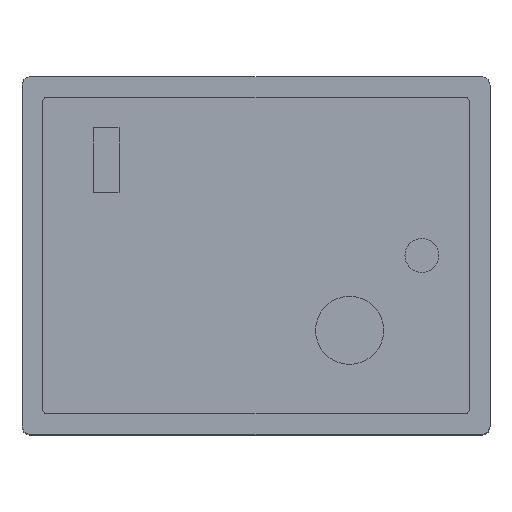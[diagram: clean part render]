
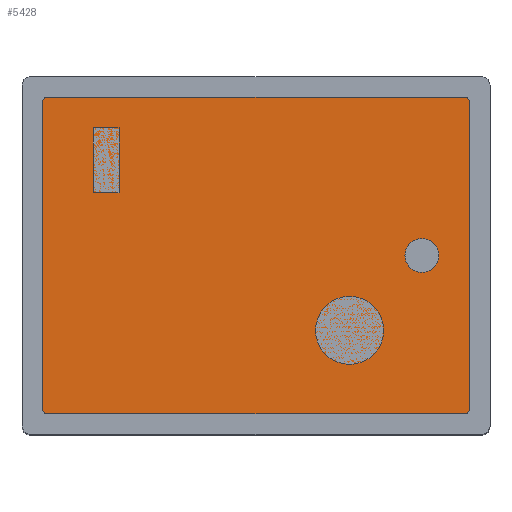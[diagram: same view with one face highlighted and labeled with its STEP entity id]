
A CAD part, top view. The second image highlights one B-rep face of the part: STEP entity #5428.
In plain terms, the highlighted planar face has unit normal (0, 0, 1).
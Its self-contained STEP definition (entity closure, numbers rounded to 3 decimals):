
#4201=CIRCLE('',#27604,1.);
#4202=CIRCLE('',#27605,0.3);
#4203=CIRCLE('',#27606,0.3);
#4204=CIRCLE('',#27607,0.3);
#4205=CIRCLE('',#27608,0.3);
#5428=ADVANCED_FACE('',(#7046,#7047),#6346,.T.);
#6346=PLANE('',#27609);
#7046=FACE_BOUND('',#8307,.T.);
#7047=FACE_BOUND('',#8308,.T.);
#8307=EDGE_LOOP('',(#14533));
#8308=EDGE_LOOP('',(#14534,#14535,#14536,#14537,#14538,#14539,#14540,#14541));
#14533=ORIENTED_EDGE('',*,*,#20744,.F.);
#14534=ORIENTED_EDGE('',*,*,#20736,.F.);
#14535=ORIENTED_EDGE('',*,*,#20745,.T.);
#14536=ORIENTED_EDGE('',*,*,#20738,.F.);
#14537=ORIENTED_EDGE('',*,*,#20746,.T.);
#14538=ORIENTED_EDGE('',*,*,#20741,.F.);
#14539=ORIENTED_EDGE('',*,*,#20747,.T.);
#14540=ORIENTED_EDGE('',*,*,#20732,.F.);
#14541=ORIENTED_EDGE('',*,*,#20748,.T.);
#17489=VERTEX_POINT('',#48247);
#17490=VERTEX_POINT('',#48248);
#17491=VERTEX_POINT('',#48253);
#17492=VERTEX_POINT('',#48255);
#17493=VERTEX_POINT('',#48259);
#17494=VERTEX_POINT('',#48260);
#17495=VERTEX_POINT('',#48265);
#17496=VERTEX_POINT('',#48266);
#17497=VERTEX_POINT('',#48271);
#20732=EDGE_CURVE('',#17489,#17490,#23253,.T.);
#20736=EDGE_CURVE('',#17491,#17492,#23257,.T.);
#20738=EDGE_CURVE('',#17493,#17494,#23259,.T.);
#20741=EDGE_CURVE('',#17495,#17496,#23262,.T.);
#20744=EDGE_CURVE('',#17497,#17497,#4201,.T.);
#20745=EDGE_CURVE('',#17491,#17494,#4202,.T.);
#20746=EDGE_CURVE('',#17493,#17496,#4203,.T.);
#20747=EDGE_CURVE('',#17495,#17490,#4204,.T.);
#20748=EDGE_CURVE('',#17489,#17492,#4205,.T.);
#23253=LINE('',#48246,#25739);
#23257=LINE('',#48254,#25743);
#23259=LINE('',#48258,#25745);
#23262=LINE('',#48264,#25748);
#25739=VECTOR('',#33468,1.);
#25743=VECTOR('',#33474,1.);
#25745=VECTOR('',#33478,1.);
#25748=VECTOR('',#33483,1.);
#27604=AXIS2_PLACEMENT_3D('',#48270,#33488,#33489);
#27605=AXIS2_PLACEMENT_3D('',#48272,#33490,#33491);
#27606=AXIS2_PLACEMENT_3D('',#48273,#33492,#33493);
#27607=AXIS2_PLACEMENT_3D('',#48274,#33494,#33495);
#27608=AXIS2_PLACEMENT_3D('',#48275,#33496,#33497);
#27609=AXIS2_PLACEMENT_3D('',#48276,#33498,#33499);
#33468=DIRECTION('',(0.,1.,0.));
#33474=DIRECTION('',(-1.,0.,0.));
#33478=DIRECTION('',(0.,-1.,0.));
#33483=DIRECTION('',(1.,0.,0.));
#33488=DIRECTION('',(0.,0.,1.));
#33489=DIRECTION('',(0.,1.,0.));
#33490=DIRECTION('',(0.,0.,1.));
#33491=DIRECTION('',(1.,0.,0.));
#33492=DIRECTION('',(0.,0.,1.));
#33493=DIRECTION('',(1.,0.,0.));
#33494=DIRECTION('',(0.,0.,1.));
#33495=DIRECTION('',(1.,0.,0.));
#33496=DIRECTION('',(0.,0.,1.));
#33497=DIRECTION('',(1.,0.,0.));
#33498=DIRECTION('',(0.,0.,1.));
#33499=DIRECTION('',(1.,0.,0.));
#48246=CARTESIAN_POINT('',(11.916,25.9,60.646));
#48247=CARTESIAN_POINT('',(11.916,1.1,60.646));
#48248=CARTESIAN_POINT('',(11.916,25.6,60.646));
#48253=CARTESIAN_POINT('',(30.216,0.8,60.646));
#48254=CARTESIAN_POINT('',(11.916,0.8,60.646));
#48255=CARTESIAN_POINT('',(12.216,0.8,60.646));
#48258=CARTESIAN_POINT('',(30.516,0.8,60.646));
#48259=CARTESIAN_POINT('',(30.516,25.6,60.646));
#48260=CARTESIAN_POINT('',(30.516,1.1,60.646));
#48264=CARTESIAN_POINT('',(30.516,25.9,60.646));
#48265=CARTESIAN_POINT('',(12.216,25.9,60.646));
#48266=CARTESIAN_POINT('',(30.216,25.9,60.646));
#48270=CARTESIAN_POINT('',(21.216,3.6,60.646));
#48271=CARTESIAN_POINT('',(21.216,4.6,60.646));
#48272=CARTESIAN_POINT('',(30.216,1.1,60.646));
#48273=CARTESIAN_POINT('',(30.216,25.6,60.646));
#48274=CARTESIAN_POINT('',(12.216,25.6,60.646));
#48275=CARTESIAN_POINT('',(12.216,1.1,60.646));
#48276=CARTESIAN_POINT('',(0.,0.,60.646));
